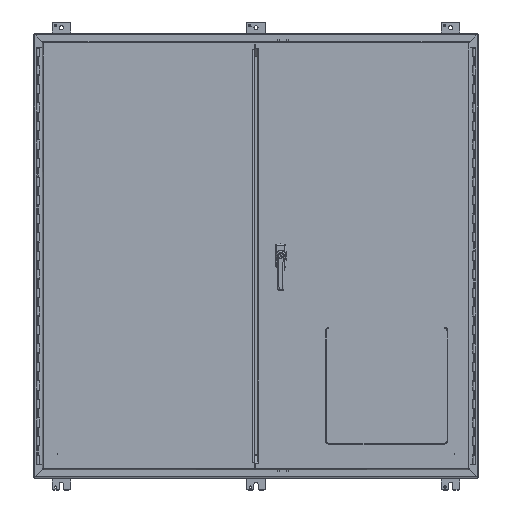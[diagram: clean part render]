
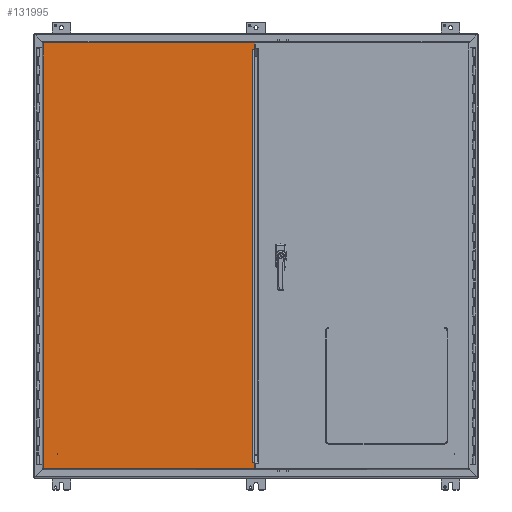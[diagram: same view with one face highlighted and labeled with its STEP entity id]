
A CAD part, top view. The second image highlights one B-rep face of the part: STEP entity #131995.
In plain terms, the highlighted planar face has unit normal (0, 0, 1).
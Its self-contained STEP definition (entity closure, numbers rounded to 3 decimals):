
#6819 = CARTESIAN_POINT ( 'NONE',  ( -11.335, 23.016, 0.072 ) ) ;
#6835 = CARTESIAN_POINT ( 'NONE',  ( -11.388, -22.963, 0.072 ) ) ;
#6837 = DIRECTION ( 'NONE',  ( 1., 0., 0. ) ) ;
#6842 = DIRECTION ( 'NONE',  ( 0., -1., 0. ) ) ;
#6845 = CARTESIAN_POINT ( 'NONE',  ( 11.468, 22.963, 0.072 ) ) ;
#6847 = DIRECTION ( 'NONE',  ( -1., 0., 0. ) ) ;
#6859 = CARTESIAN_POINT ( 'NONE',  ( 11.467, 23.095, 0.072 ) ) ;
#6867 = DIRECTION ( 'NONE',  ( 0., 1., 0. ) ) ;
#6870 = CARTESIAN_POINT ( 'NONE',  ( 11.467, 23.095, 0.072 ) ) ;
#6872 = DIRECTION ( 'NONE',  ( 0., 1., 0. ) ) ;
#6920 = CARTESIAN_POINT ( 'NONE',  ( -11.467, 22.283, 0.072 ) ) ;
#6922 = DIRECTION ( 'NONE',  ( 1., 0., 0. ) ) ;
#6925 = CARTESIAN_POINT ( 'NONE',  ( -11.467, -22.283, 0.072 ) ) ;
#6927 = DIRECTION ( 'NONE',  ( -1., 0., 0. ) ) ;
#6936 = CARTESIAN_POINT ( 'NONE',  ( 11.29, -22.283, 0.072 ) ) ;
#6958 = DIRECTION ( 'NONE',  ( 0., 1., 0. ) ) ;
#20644 = AXIS2_PLACEMENT_3D ( 'NONE', #83141, #83170, #83173 ) ;
#83141 = CARTESIAN_POINT ( 'NONE',  ( -11.467, -23.095, 0.072 ) ) ;
#83155 = PLANE ( 'NONE',  #20644 ) ;
#83170 = DIRECTION ( 'NONE',  ( 0., 0., 1. ) ) ;
#83173 = DIRECTION ( 'NONE',  ( 1., 0., 0. ) ) ;
#104659 = FACE_OUTER_BOUND ( 'NONE', #111549, .T. ) ;
#111549 = EDGE_LOOP ( 'NONE', ( #138131, #138132, #138133, #138134, #138135, #138136, #138137, #138138 ) ) ;
#127066 = CARTESIAN_POINT ( 'NONE',  ( -11.335, -22.963, 0.072 ) ) ;
#127068 = CARTESIAN_POINT ( 'NONE',  ( -11.335, 22.963, 0.072 ) ) ;
#127070 = CARTESIAN_POINT ( 'NONE',  ( 11.468, 22.963, 0.072 ) ) ;
#127072 = CARTESIAN_POINT ( 'NONE',  ( 11.467, -22.963, 0.072 ) ) ;
#127074 = CARTESIAN_POINT ( 'NONE',  ( 11.468, 22.283, 0.072 ) ) ;
#127076 = CARTESIAN_POINT ( 'NONE',  ( 11.467, -22.283, 0.072 ) ) ;
#127081 = CARTESIAN_POINT ( 'NONE',  ( 11.29, 22.283, 0.072 ) ) ;
#127084 = CARTESIAN_POINT ( 'NONE',  ( 11.289, -22.283, 0.072 ) ) ;
#130886 = VERTEX_POINT ( 'NONE', #127066 ) ;
#130888 = VERTEX_POINT ( 'NONE', #127068 ) ;
#130890 = VERTEX_POINT ( 'NONE', #127070 ) ;
#130892 = VERTEX_POINT ( 'NONE', #127072 ) ;
#130894 = VERTEX_POINT ( 'NONE', #127074 ) ;
#130896 = VERTEX_POINT ( 'NONE', #127076 ) ;
#130901 = VERTEX_POINT ( 'NONE', #127081 ) ;
#130904 = VERTEX_POINT ( 'NONE', #127084 ) ;
#131995 = ADVANCED_FACE ( 'NONE', ( #104659 ), #83155, .T. ) ;
#138131 = ORIENTED_EDGE ( 'NONE', *, *, #141189, .T. ) ;
#138132 = ORIENTED_EDGE ( 'NONE', *, *, #141210, .T. ) ;
#138133 = ORIENTED_EDGE ( 'NONE', *, *, #141221, .T. ) ;
#138134 = ORIENTED_EDGE ( 'NONE', *, *, #141208, .T. ) ;
#138135 = ORIENTED_EDGE ( 'NONE', *, *, #141186, .T. ) ;
#138136 = ORIENTED_EDGE ( 'NONE', *, *, #141178, .T. ) ;
#138137 = ORIENTED_EDGE ( 'NONE', *, *, #141176, .T. ) ;
#138138 = ORIENTED_EDGE ( 'NONE', *, *, #141173, .T. ) ;
#141173 = EDGE_CURVE ( 'NONE', #130886, #130892, #141889, .T. ) ;
#141176 = EDGE_CURVE ( 'NONE', #130888, #130886, #141866, .T. ) ;
#141178 = EDGE_CURVE ( 'NONE', #130890, #130888, #141893, .T. ) ;
#141186 = EDGE_CURVE ( 'NONE', #130894, #130890, #141884, .T. ) ;
#141189 = EDGE_CURVE ( 'NONE', #130892, #130896, #141903, .T. ) ;
#141208 = EDGE_CURVE ( 'NONE', #130901, #130894, #141915, .T. ) ;
#141210 = EDGE_CURVE ( 'NONE', #130896, #130904, #141919, .T. ) ;
#141221 = EDGE_CURVE ( 'NONE', #130904, #130901, #141926, .T. ) ;
#141866 = LINE ( 'NONE', #6819, #141891 ) ;
#141884 = LINE ( 'NONE', #6859, #141901 ) ;
#141889 = LINE ( 'NONE', #6835, #141890 ) ;
#141890 = VECTOR ( 'NONE', #6837, 39.37 ) ;
#141891 = VECTOR ( 'NONE', #6842, 39.37 ) ;
#141893 = LINE ( 'NONE', #6845, #141894 ) ;
#141894 = VECTOR ( 'NONE', #6847, 39.37 ) ;
#141901 = VECTOR ( 'NONE', #6867, 39.37 ) ;
#141903 = LINE ( 'NONE', #6870, #141904 ) ;
#141904 = VECTOR ( 'NONE', #6872, 39.37 ) ;
#141914 = VECTOR ( 'NONE', #6922, 39.37 ) ;
#141915 = LINE ( 'NONE', #6920, #141914 ) ;
#141919 = LINE ( 'NONE', #6925, #141920 ) ;
#141920 = VECTOR ( 'NONE', #6927, 39.37 ) ;
#141926 = LINE ( 'NONE', #6936, #141928 ) ;
#141928 = VECTOR ( 'NONE', #6958, 39.37 ) ;
